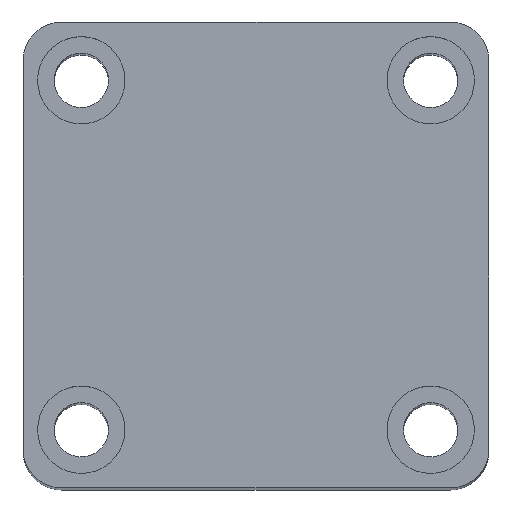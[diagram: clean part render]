
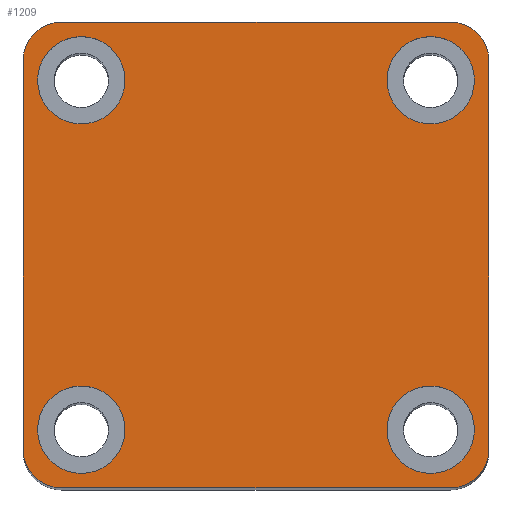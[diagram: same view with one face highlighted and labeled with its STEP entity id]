
A CAD part, top view. The second image highlights one B-rep face of the part: STEP entity #1209.
In plain terms, the highlighted planar face has unit normal (0, 0, 1).
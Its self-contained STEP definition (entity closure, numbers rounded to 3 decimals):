
#8 = VERTEX_POINT ( 'NONE', #1805 ) ;
#22 = VERTEX_POINT ( 'NONE', #1784 ) ;
#49 = VERTEX_POINT ( 'NONE', #1769 ) ;
#92 = EDGE_LOOP ( 'NONE', ( #344, #345, #339, #329, #328, #327, #326, #325 ) ) ;
#325 = ORIENTED_EDGE ( 'NONE', *, *, #1115, .T. ) ;
#326 = ORIENTED_EDGE ( 'NONE', *, *, #1123, .T. ) ;
#327 = ORIENTED_EDGE ( 'NONE', *, *, #1073, .T. ) ;
#328 = ORIENTED_EDGE ( 'NONE', *, *, #1138, .T. ) ;
#329 = ORIENTED_EDGE ( 'NONE', *, *, #1054, .T. ) ;
#338 = ORIENTED_EDGE ( 'NONE', *, *, #1170, .F. ) ;
#339 = ORIENTED_EDGE ( 'NONE', *, *, #1134, .T. ) ;
#340 = ORIENTED_EDGE ( 'NONE', *, *, #1076, .F. ) ;
#341 = ORIENTED_EDGE ( 'NONE', *, *, #1070, .F. ) ;
#342 = ORIENTED_EDGE ( 'NONE', *, *, #1085, .F. ) ;
#343 = ORIENTED_EDGE ( 'NONE', *, *, #1080, .F. ) ;
#344 = ORIENTED_EDGE ( 'NONE', *, *, #1132, .T. ) ;
#345 = ORIENTED_EDGE ( 'NONE', *, *, #1176, .T. ) ;
#346 = ORIENTED_EDGE ( 'NONE', *, *, #1180, .F. ) ;
#347 = ORIENTED_EDGE ( 'NONE', *, *, #1197, .F. ) ;
#377 = ORIENTED_EDGE ( 'NONE', *, *, #1129, .F. ) ;
#422 = EDGE_LOOP ( 'NONE', ( #338, #342 ) ) ;
#443 = EDGE_LOOP ( 'NONE', ( #347, #340 ) ) ;
#457 = EDGE_LOOP ( 'NONE', ( #346, #343 ) ) ;
#486 = EDGE_LOOP ( 'NONE', ( #377, #341 ) ) ;
#494 = VERTEX_POINT ( 'NONE', #1750 ) ;
#503 = VERTEX_POINT ( 'NONE', #1715 ) ;
#510 = VERTEX_POINT ( 'NONE', #1679 ) ;
#512 = VERTEX_POINT ( 'NONE', #1674 ) ;
#516 = VERTEX_POINT ( 'NONE', #1661 ) ;
#523 = VERTEX_POINT ( 'NONE', #1638 ) ;
#525 = VERTEX_POINT ( 'NONE', #1629 ) ;
#540 = VERTEX_POINT ( 'NONE', #1590 ) ;
#545 = VERTEX_POINT ( 'NONE', #1575 ) ;
#557 = VERTEX_POINT ( 'NONE', #1537 ) ;
#559 = VERTEX_POINT ( 'NONE', #1890 ) ;
#565 = VERTEX_POINT ( 'NONE', #1884 ) ;
#572 = VERTEX_POINT ( 'NONE', #1877 ) ;
#596 = AXIS2_PLACEMENT_3D ( 'NONE', #787, #786, #785 ) ;
#603 = AXIS2_PLACEMENT_3D ( 'NONE', #861, #860, #859 ) ;
#605 = AXIS2_PLACEMENT_3D ( 'NONE', #879, #878, #877 ) ;
#610 = AXIS2_PLACEMENT_3D ( 'NONE', #901, #900, #899 ) ;
#642 = AXIS2_PLACEMENT_3D ( 'NONE', #818, #816, #815 ) ;
#656 = AXIS2_PLACEMENT_3D ( 'NONE', #984, #980, #976 ) ;
#673 = AXIS2_PLACEMENT_3D ( 'NONE', #1641, #1640, #1639 ) ;
#676 = AXIS2_PLACEMENT_3D ( 'NONE', #1660, #1659, #1658 ) ;
#678 = AXIS2_PLACEMENT_3D ( 'NONE', #1675, #1672, #1671 ) ;
#680 = AXIS2_PLACEMENT_3D ( 'NONE', #1687, #1686, #1684 ) ;
#681 = AXIS2_PLACEMENT_3D ( 'NONE', #1694, #1693, #1692 ) ;
#690 = AXIS2_PLACEMENT_3D ( 'NONE', #1742, #1740, #1739 ) ;
#744 = DIRECTION ( 'NONE',  ( 1., 0., 0. ) ) ;
#750 = CARTESIAN_POINT ( 'NONE',  ( -24., -24., 120. ) ) ;
#773 = DIRECTION ( 'NONE',  ( 0., -1., 0. ) ) ;
#779 = CARTESIAN_POINT ( 'NONE',  ( -24., 24., 120. ) ) ;
#785 = DIRECTION ( 'NONE',  ( 1., 0., 0. ) ) ;
#786 = DIRECTION ( 'NONE',  ( 0., 0., 1. ) ) ;
#787 = CARTESIAN_POINT ( 'NONE',  ( 18., 18., 120. ) ) ;
#791 = DIRECTION ( 'NONE',  ( -1., 0., 0. ) ) ;
#795 = CARTESIAN_POINT ( 'NONE',  ( -24., 24., 120. ) ) ;
#815 = DIRECTION ( 'NONE',  ( 1., 0., 0. ) ) ;
#816 = DIRECTION ( 'NONE',  ( 0., 0., 1. ) ) ;
#818 = CARTESIAN_POINT ( 'NONE',  ( -18., 18., 120. ) ) ;
#859 = DIRECTION ( 'NONE',  ( 1., 0., 0. ) ) ;
#860 = DIRECTION ( 'NONE',  ( 0., 0., 1. ) ) ;
#861 = CARTESIAN_POINT ( 'NONE',  ( -18., -18., 120. ) ) ;
#877 = DIRECTION ( 'NONE',  ( 1., 0., 0. ) ) ;
#878 = DIRECTION ( 'NONE',  ( 0., 0., 1. ) ) ;
#879 = CARTESIAN_POINT ( 'NONE',  ( -20., 20., 120. ) ) ;
#899 = DIRECTION ( 'NONE',  ( 1., 0., 0. ) ) ;
#900 = DIRECTION ( 'NONE',  ( 0., 0., 1. ) ) ;
#901 = CARTESIAN_POINT ( 'NONE',  ( 18., -18., 120. ) ) ;
#908 = DIRECTION ( 'NONE',  ( 0., 1., 0. ) ) ;
#909 = CARTESIAN_POINT ( 'NONE',  ( 24., 24., 120. ) ) ;
#976 = DIRECTION ( 'NONE',  ( 1., 0., 0. ) ) ;
#980 = DIRECTION ( 'NONE',  ( 0., 0., 1. ) ) ;
#984 = CARTESIAN_POINT ( 'NONE',  ( 20., 20., 120. ) ) ;
#1054 = EDGE_CURVE ( 'NONE', #8, #49, #2487, .T. ) ;
#1070 = EDGE_CURVE ( 'NONE', #565, #512, #2465, .T. ) ;
#1073 = EDGE_CURVE ( 'NONE', #523, #516, #2461, .T. ) ;
#1076 = EDGE_CURVE ( 'NONE', #510, #572, #2456, .T. ) ;
#1080 = EDGE_CURVE ( 'NONE', #494, #503, #2450, .T. ) ;
#1085 = EDGE_CURVE ( 'NONE', #557, #545, #2441, .T. ) ;
#1115 = EDGE_CURVE ( 'NONE', #540, #22, #2399, .T. ) ;
#1123 = EDGE_CURVE ( 'NONE', #516, #540, #2391, .T. ) ;
#1129 = EDGE_CURVE ( 'NONE', #512, #565, #2387, .T. ) ;
#1132 = EDGE_CURVE ( 'NONE', #22, #525, #2377, .T. ) ;
#1134 = EDGE_CURVE ( 'NONE', #559, #8, #2373, .T. ) ;
#1138 = EDGE_CURVE ( 'NONE', #49, #523, #2366, .T. ) ;
#1170 = EDGE_CURVE ( 'NONE', #545, #557, #1512, .T. ) ;
#1176 = EDGE_CURVE ( 'NONE', #525, #559, #1505, .T. ) ;
#1180 = EDGE_CURVE ( 'NONE', #503, #494, #1502, .T. ) ;
#1197 = EDGE_CURVE ( 'NONE', #572, #510, #1482, .T. ) ;
#1209 = ADVANCED_FACE ( 'NONE', ( #1323, #1319, #1322, #1320, #1321 ), #2252, .T. ) ;
#1319 = FACE_BOUND ( 'NONE', #443, .T. ) ;
#1320 = FACE_BOUND ( 'NONE', #422, .T. ) ;
#1321 = FACE_OUTER_BOUND ( 'NONE', #92, .T. ) ;
#1322 = FACE_BOUND ( 'NONE', #457, .T. ) ;
#1323 = FACE_BOUND ( 'NONE', #486, .T. ) ;
#1482 = CIRCLE ( 'NONE', #596, 4.5 ) ;
#1502 = CIRCLE ( 'NONE', #603, 4.5 ) ;
#1505 = CIRCLE ( 'NONE', #605, 4. ) ;
#1512 = CIRCLE ( 'NONE', #610, 4.5 ) ;
#1537 = CARTESIAN_POINT ( 'NONE',  ( 13.5, -18., 120. ) ) ;
#1575 = CARTESIAN_POINT ( 'NONE',  ( 22.5, -18., 120. ) ) ;
#1590 = CARTESIAN_POINT ( 'NONE',  ( 24., 20., 120. ) ) ;
#1629 = CARTESIAN_POINT ( 'NONE',  ( -20., 24., 120. ) ) ;
#1638 = CARTESIAN_POINT ( 'NONE',  ( 20., -24., 120. ) ) ;
#1639 = DIRECTION ( 'NONE',  ( 1., 0., 0. ) ) ;
#1640 = DIRECTION ( 'NONE',  ( 0., 0., 1. ) ) ;
#1641 = CARTESIAN_POINT ( 'NONE',  ( 18., -18., 120. ) ) ;
#1658 = DIRECTION ( 'NONE',  ( 1., 0., 0. ) ) ;
#1659 = DIRECTION ( 'NONE',  ( 0., 0., 1. ) ) ;
#1660 = CARTESIAN_POINT ( 'NONE',  ( -18., -18., 120. ) ) ;
#1661 = CARTESIAN_POINT ( 'NONE',  ( 24., -20., 120. ) ) ;
#1671 = DIRECTION ( 'NONE',  ( 1., 0., 0. ) ) ;
#1672 = DIRECTION ( 'NONE',  ( 0., 0., 1. ) ) ;
#1674 = CARTESIAN_POINT ( 'NONE',  ( -13.5, 18., 120. ) ) ;
#1675 = CARTESIAN_POINT ( 'NONE',  ( 18., 18., 120. ) ) ;
#1679 = CARTESIAN_POINT ( 'NONE',  ( 13.5, 18., 120. ) ) ;
#1684 = DIRECTION ( 'NONE',  ( 1., 0., 0. ) ) ;
#1686 = DIRECTION ( 'NONE',  ( 0., 0., 1. ) ) ;
#1687 = CARTESIAN_POINT ( 'NONE',  ( 20., -20., 120. ) ) ;
#1692 = DIRECTION ( 'NONE',  ( 1., 0., 0. ) ) ;
#1693 = DIRECTION ( 'NONE',  ( 0., 0., 1. ) ) ;
#1694 = CARTESIAN_POINT ( 'NONE',  ( -18., 18., 120. ) ) ;
#1715 = CARTESIAN_POINT ( 'NONE',  ( -13.5, -18., 120. ) ) ;
#1739 = DIRECTION ( 'NONE',  ( 1., 0., 0. ) ) ;
#1740 = DIRECTION ( 'NONE',  ( 0., 0., 1. ) ) ;
#1742 = CARTESIAN_POINT ( 'NONE',  ( -20., -20., 120. ) ) ;
#1750 = CARTESIAN_POINT ( 'NONE',  ( -22.5, -18., 120. ) ) ;
#1769 = CARTESIAN_POINT ( 'NONE',  ( -20., -24., 120. ) ) ;
#1784 = CARTESIAN_POINT ( 'NONE',  ( 20., 24., 120. ) ) ;
#1805 = CARTESIAN_POINT ( 'NONE',  ( -24., -20., 120. ) ) ;
#1877 = CARTESIAN_POINT ( 'NONE',  ( 22.5, 18., 120. ) ) ;
#1884 = CARTESIAN_POINT ( 'NONE',  ( -22.5, 18., 120. ) ) ;
#1890 = CARTESIAN_POINT ( 'NONE',  ( -24., 20., 120. ) ) ;
#1968 = AXIS2_PLACEMENT_3D ( 'NONE', #2063, #2032, #2178 ) ;
#2032 = DIRECTION ( 'NONE',  ( 0., 0., 1. ) ) ;
#2063 = CARTESIAN_POINT ( 'NONE',  ( 0., 0., 120. ) ) ;
#2178 = DIRECTION ( 'NONE',  ( 1., 0., 0. ) ) ;
#2252 = PLANE ( 'NONE',  #1968 ) ;
#2363 = VECTOR ( 'NONE', #744, 1000. ) ;
#2366 = LINE ( 'NONE', #750, #2363 ) ;
#2370 = VECTOR ( 'NONE', #773, 1000. ) ;
#2373 = LINE ( 'NONE', #779, #2370 ) ;
#2374 = VECTOR ( 'NONE', #791, 1000. ) ;
#2377 = LINE ( 'NONE', #795, #2374 ) ;
#2387 = CIRCLE ( 'NONE', #642, 4.5 ) ;
#2389 = VECTOR ( 'NONE', #908, 1000. ) ;
#2391 = LINE ( 'NONE', #909, #2389 ) ;
#2399 = CIRCLE ( 'NONE', #656, 4. ) ;
#2441 = CIRCLE ( 'NONE', #673, 4.5 ) ;
#2450 = CIRCLE ( 'NONE', #676, 4.5 ) ;
#2456 = CIRCLE ( 'NONE', #678, 4.5 ) ;
#2461 = CIRCLE ( 'NONE', #680, 4. ) ;
#2465 = CIRCLE ( 'NONE', #681, 4.5 ) ;
#2487 = CIRCLE ( 'NONE', #690, 4. ) ;
